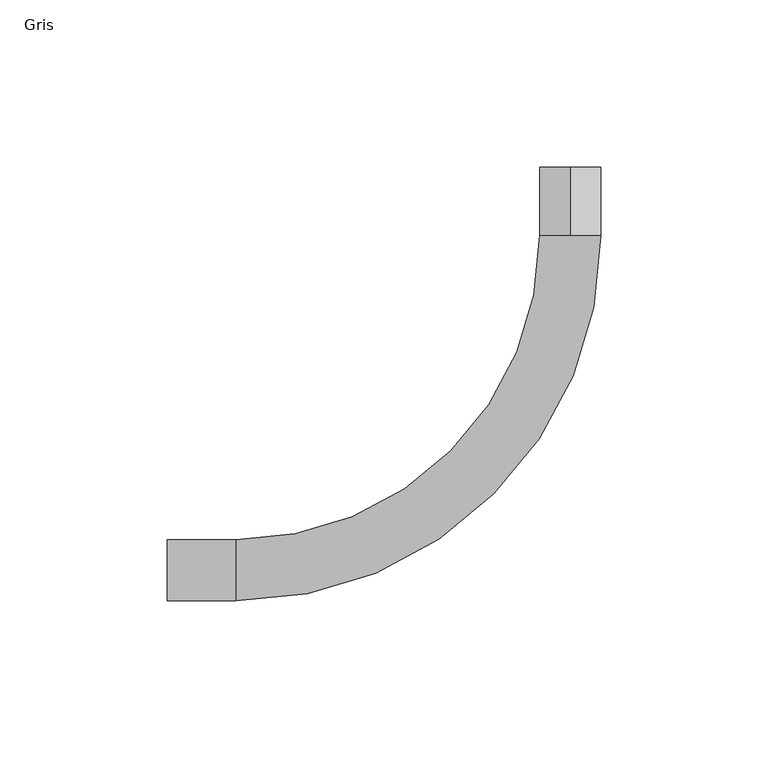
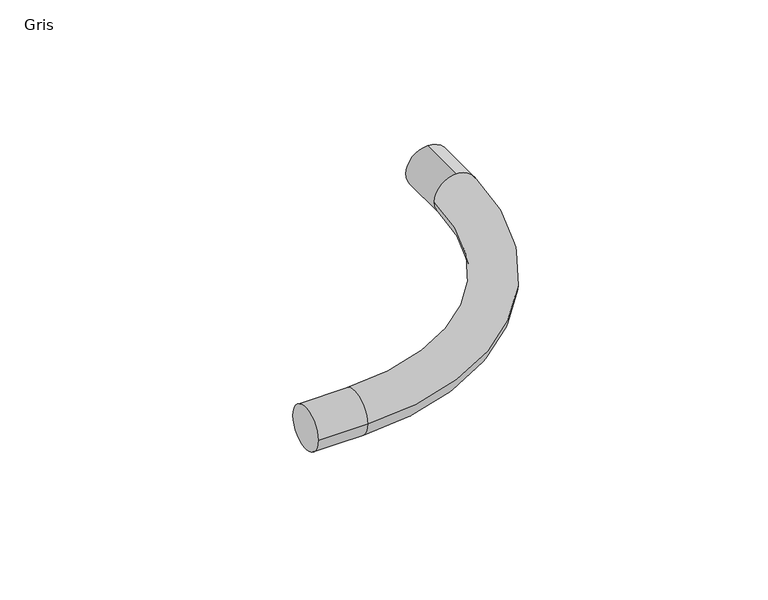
"""IFC4 building model written with IfcOpenShell, lengths in millimetres: cable carrier fitting geometry, AmancoWavin_ConduitFittings_Curva : Gris."""

from ifc_helpers import new_model, si_unit, point, frame, origin, place, context, project, spatial, circle_curve, ellipse_curve, trimmed, source, transform, mapped, element, save
from ifc_brep_helpers import plane_surface, cylinder_surface, revolved_surface, advanced_brep


def gris_01a32dd9(model_context):
    return source(origin(), model_context, "Body", "AdvancedBrep", [
        advanced_brep(
        [(-120.58, -9.13, 0.0), (-120.58, 9.13, 0.0), (-100.0, -9.13, 0.0), (-100.0, 9.13, 0.0), (9.13, 100.0, 0.0), (0.0, 100.0, 9.13), (-9.13, 100.0, 0.0), (0.0, 100.0, -9.13), (0.0, 120.58, -9.13), (0.0, 120.58, 9.13)],
        [
            (0, 1, circle_curve(frame((-120.58, 0.0, 0.0), z_axis=(-1.0, 0.0, 0.0), x_axis=(0.0, 1.0, 0.0)), 9.13)),
            (1, 0, circle_curve(frame((-120.58, 0.0, 0.0), z_axis=(-1.0, 0.0, 0.0), x_axis=(0.0, 1.0, 0.0)), 9.13)),
            (0, 2),
            (2, 3, circle_curve(frame((-100.0, 0.0, 0.0), z_axis=(-1.0, 0.0, 0.0), x_axis=(0.0, 1.0, 0.0)), 9.13)),
            (3, 1),
            (3, 2, circle_curve(frame((-100.0, 0.0, 0.0), z_axis=(-1.0, 0.0, 0.0), x_axis=(0.0, 1.0, 0.0)), 9.13)),
            (2, 4, circle_curve(frame((-100.0, 100.0, 0.0), z_axis=(0.0, 0.0, 1.0), x_axis=(0.0, -1.0, 0.0)), 109.13)),
            (4, 5, circle_curve(frame((0.0, 100.0, 0.0), z_axis=(0.0, -1.0, 0.0), x_axis=(-1.0, 0.0, 0.0)), 9.13)),
            (5, 6, circle_curve(frame((0.0, 100.0, 0.0), z_axis=(0.0, -1.0, 0.0), x_axis=(-1.0, 0.0, 0.0)), 9.13)),
            (6, 3, circle_curve(frame((-100.0, 100.0, 0.0), z_axis=(0.0, 0.0, -1.0), x_axis=(0.0, -1.0, 0.0)), 90.87)),
            (6, 7, circle_curve(frame((0.0, 100.0, 0.0), z_axis=(0.0, -1.0, 0.0), x_axis=(-1.0, 0.0, 0.0)), 9.13)),
            (7, 4, circle_curve(frame((0.0, 100.0, 0.0), z_axis=(0.0, -1.0, 0.0), x_axis=(-1.0, 0.0, 0.0)), 9.13)),
            (8, 9, circle_curve(frame((0.0, 120.58, 0.0), z_axis=(0.0, 1.0, 0.0), x_axis=(0.0, 0.0, 1.0)), 9.13)),
            (9, 8, circle_curve(frame((0.0, 120.58, 0.0), z_axis=(0.0, 1.0, 0.0), x_axis=(0.0, 0.0, 1.0)), 9.13)),
            (8, 7),
            (5, 9),
        ],
        [
            plane_surface(frame((-120.58, 0.0, 0.0), z_axis=(-1.0, 0.0, 0.0), x_axis=(0.0, 0.0, 1.0))),
            cylinder_surface(frame((-120.58, 0.0, 0.0), z_axis=(-1.0, 0.0, 0.0), x_axis=(0.0, 1.0, 0.0)), 9.13),
            revolved_surface(trimmed(ellipse_curve(frame((-100.0, 0.0, 0.0), z_axis=(-1.0, 0.0, 0.0), x_axis=(0.0, 1.0, 0.0)), 9.13, 9.13), [point((-100.0, -9.13, 0.0))], [point((-100.0, 9.13, 0.0))], True, "CARTESIAN"), (-100.0, 100.0, 0.0), (0.0, 0.0, 1.0)),
            revolved_surface(trimmed(ellipse_curve(frame((-100.0, 0.0, 0.0), z_axis=(-1.0, 0.0, 0.0), x_axis=(0.0, 1.0, 0.0)), 9.13, 9.13), [point((-100.0, 9.13, 0.0))], [point((-100.0, -9.13, 0.0))], True, "CARTESIAN"), (-100.0, 100.0, 0.0), (0.0, 0.0, 1.0)),
            plane_surface(frame((0.0, 120.58, 9.13), z_axis=(0.0, 1.0, 0.0), x_axis=(1.0, 0.0, 0.0))),
            cylinder_surface(frame((0.0, 100.0, 0.0), z_axis=(0.0, 1.0, 0.0), x_axis=(0.0, 0.0, 1.0)), 9.13),
        ],
        [
            (0, [[1, 2]]),
            (1, [[-1, 3, 4, 5]]),
            (1, [[-2, -5, 6, -3]]),
            (2, [[-4, 7, 8, 9, 10]]),
            (3, [[-6, -10, 11, 12, -7]]),
            (4, [[13, 14]]),
            (5, [[-13, 15, -11, -9, 16]]),
            (5, [[-14, -16, -8, -12, -15]]),
        ],
    ),
    ])


if __name__ == "__main__":
    model = new_model("IFC4")
    model_context = context("Model", 3, world=origin())
    ifc_project = project(units=[si_unit("LENGTHUNIT", "METRE", prefix="MILLI")], contexts=[model_context])
    site = spatial("IfcSite", under=ifc_project)
    building = spatial("IfcBuilding", under=site)
    placement = place(None, origin())
    gris_shape = gris_01a32dd9(model_context)
    element("IfcCableCarrierFitting", 1, ObjectType="AmancoWavin_ConduitFittings_Curva : Gris", at=placement, inside=building, context=model_context, shape_type="MappedRepresentation", body=[
        mapped(gris_shape, transform((0.0, 0.0, 0.0), x_axis=(1.0, 0.0, 0.0), y_axis=(0.0, 1.0, 0.0), z_axis=(0.0, 0.0, 1.0))),
    ])
    save(model, "model.ifc")
